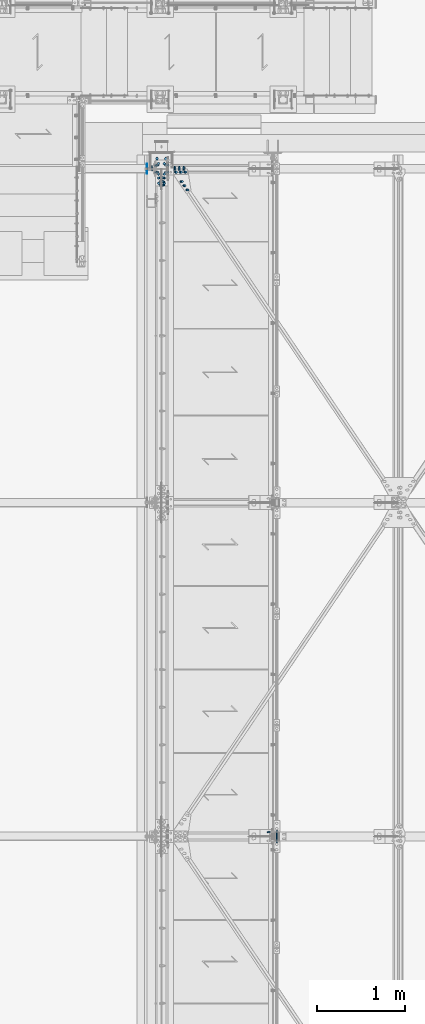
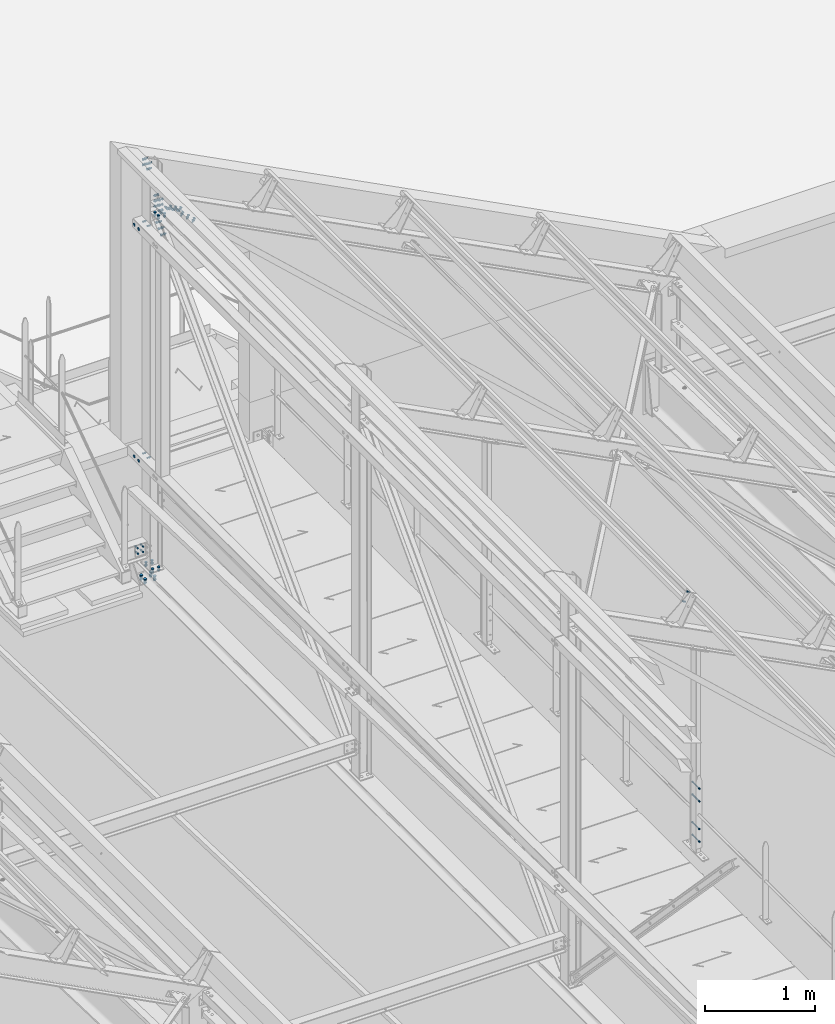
# One storey, part 174 of 362: 17 mechanical fasteners.
"""IFC2X3 building model written with IfcOpenShell, lengths in millimetres."""

from ifc_helpers import new_model, si_unit, frame, frame_2d, origin_with_axes, origin_2d_with_axis, place, context, subcontext, project, spatial, polyline, circle_curve, parameter, trimmed, segment, composite_curve, circle, outline, extrude, source, transform, mapped, material, type_object, element, save


model = new_model("IFC2X3")

# Units and contexts
model_context = context("Model", 3, precision=1e-05, world=origin_with_axes())
body_context = subcontext(model_context, "Body", "Model", "MODEL_VIEW")
ifc_project = project(units=[si_unit("LENGTHUNIT", "METRE", prefix="MILLI"), si_unit("AREAUNIT", "SQUARE_METRE"), si_unit("VOLUMEUNIT", "CUBIC_METRE"), si_unit("MASSUNIT", "GRAM", prefix="KILO"), si_unit("TIMEUNIT", "SECOND"), si_unit("PLANEANGLEUNIT", "RADIAN"), si_unit("SOLIDANGLEUNIT", "STERADIAN"), si_unit("THERMODYNAMICTEMPERATUREUNIT", "DEGREE_CELSIUS"), si_unit("LUMINOUSINTENSITYUNIT", "LUMEN")], contexts=[model_context])

# Site, building, storey
site_placement = place(None, origin_with_axes())
site = spatial("IfcSite", under=ifc_project, at=site_placement, Name="Undefined", CompositionType="ELEMENT")
building_placement = place(site_placement, origin_with_axes())
building = spatial("IfcBuilding", under=site, at=building_placement, Name="Undefined", CompositionType="ELEMENT")
storey_placement = place(building_placement, origin_with_axes())
storey = spatial("IfcBuildingStorey", under=building, at=storey_placement, Name="Undefined", CompositionType="ELEMENT", Elevation=0.0)

# Mechanical fasteners
ifc_material_1 = material(Name="6.8")
mechanical_fastener_type = type_object("IfcMechanicalFastenerType", Name="Bolt assembly")
shared_shape_1 = source(origin_with_axes(), body_context, "Body", "SweptSolid", [
    extrude(circle(Radius=15.0, at=origin_2d_with_axis()), frame((0.0, 0.0, 0.0), z_axis=(0.0, 1.0, 0.0), x_axis=(1.0, 0.0, 0.0)), (0.0, 0.0, 1.0), 4.1),
])
mechanical_fastener_1_placement = place(storey_placement, frame((23303.5000012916, 15200.0, 11070.0), z_axis=(0.0, 1.0, 0.0), x_axis=(0.0, 0.0, 1.0)))
element("IfcMechanicalFastener", 1, at=mechanical_fastener_1_placement, inside=storey, type_object=mechanical_fastener_type, material=ifc_material_1, Name="Bolt assembly", NominalDiameter=30.0, NominalLength=4.0, context=body_context, shape_type="MappedRepresentation", body=[
    mapped(shared_shape_1, transform((0.0, 0.0, 40.0))),
    mapped(shared_shape_1, transform((0.0, 0.0, -40.0))),
])
ifc_material_2 = material(Name="#_SB-8.8-ZINGUE")
shared_shape_2 = source(origin_with_axes(), body_context, "Body", "SweptSolid", [
    extrude(circle(Radius=9.0, at=origin_2d_with_axis()), frame((0.0, 0.1, 0.0), z_axis=(0.0, 1.0, 0.0), x_axis=(1.0, 0.0, 0.0)), (0.0, 0.0, 1.0), 6.0),
    extrude(circle(Radius=9.0, at=origin_2d_with_axis()), frame((0.0, 5.90002706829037, 0.0), z_axis=(0.0, 1.0, 0.0), x_axis=(1.0, 0.0, 0.0)), (0.0, 0.0, 1.0), 6.1),
    extrude(outline(polyline([(13.85640646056, 0.0), (6.92820323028, 12.0000000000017), (-6.92820323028, 12.0000000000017), (-13.85640646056, 0.0), (-6.92820323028, -12.0000000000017), (6.92820323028, -12.0000000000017), (13.85640646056, 0.0)])), frame((0.0, -10.5600019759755, 0.0), z_axis=(0.0, 1.0, 0.0), x_axis=(1.0, 0.0, 0.0)), (0.0, 0.0, 1.0), 10.56),
    extrude(circle(Radius=8.0, at=origin_2d_with_axis()), frame((0.0, 0.0, 0.0), z_axis=(0.0, 1.0, 0.0), x_axis=(1.0, 0.0, 0.0)), (0.0, 0.0, 1.0), 40.0),
    extrude(outline(polyline([(15.3344231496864, 0.0), (7.6672115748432, 13.2800000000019), (-7.6672115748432, 13.2800000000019), (-15.3344231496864, 0.0), (-7.6672115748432, -13.2800000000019), (7.6672115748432, -13.2800000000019), (15.3344231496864, 0.0)])), frame((0.0, 12.0000270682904, 0.0), z_axis=(0.0, 1.0, 0.0), x_axis=(1.0, 0.0, 0.0)), (0.0, 0.0, 1.0), 10.56),
])
mechanical_fastener_2_placement = place(storey_placement, frame((23691.9693370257, 15162.0002680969, 11177.6207287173), z_axis=(-0.887870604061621, -1.29999898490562e-08, 0.460093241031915), x_axis=(0.0, 1.0, 0.0)))
element("IfcMechanicalFastener", 2, at=mechanical_fastener_2_placement, inside=storey, type_object=mechanical_fastener_type, material=ifc_material_2, Name="Bolt assembly", NominalDiameter=16.0, NominalLength=40.0, context=body_context, shape_type="MappedRepresentation", body=[
    mapped(shared_shape_2, transform((0.0, 0.0, -60.0))),
    mapped(shared_shape_2, transform((0.0, 0.0, 0.0))),
    mapped(shared_shape_2, transform((0.0, 0.0, 60.0))),
])
ifc_material_3 = material(Name="8.8-SB-ZINGUE")
shared_shape_3 = source(origin_with_axes(), body_context, "Body", "SweptSolid", [
    extrude(circle(Radius=9.0, at=origin_2d_with_axis()), frame((0.0, -10.9000000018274, 0.0), z_axis=(0.0, 1.0, 0.0), x_axis=(1.0, 0.0, 0.0)), (0.0, 0.0, 1.0), 6.0),
    extrude(circle(Radius=9.0, at=origin_2d_with_axis()), frame((0.0, 4.9000000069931, 0.0), z_axis=(0.0, 1.0, 0.0), x_axis=(1.0, 0.0, 0.0)), (0.0, 0.0, 1.0), 6.1),
    extrude(circle(Radius=9.0, at=origin_2d_with_axis()), frame((0.0, -3.99999923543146, 0.0), z_axis=(0.0, 1.0, 0.0), x_axis=(1.0, 0.0, 0.0)), (0.0, 0.0, 1.0), 8.0),
    extrude(outline(polyline([(13.85640646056, 0.0), (6.92820323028, 12.0000000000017), (-6.92820323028, 12.0000000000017), (-13.85640646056, 0.0), (-6.92820323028, -12.0000000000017), (6.92820323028, -12.0000000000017), (13.85640646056, 0.0)])), frame((0.0, -21.5600000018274, 0.0), z_axis=(0.0, 1.0, 0.0), x_axis=(1.0, 0.0, 0.0)), (0.0, 0.0, 1.0), 10.56),
    extrude(circle(Radius=8.0, at=origin_2d_with_axis()), frame((0.0, -11.0000000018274, 0.0), z_axis=(0.0, 1.0, 0.0), x_axis=(1.0, 0.0, 0.0)), (0.0, 0.0, 1.0), 50.0),
    extrude(outline(polyline([(15.3344231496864, 0.0), (7.6672115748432, 13.2800000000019), (-7.6672115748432, 13.2800000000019), (-15.3344231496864, 0.0), (-7.6672115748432, -13.2800000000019), (7.6672115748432, -13.2800000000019), (15.3344231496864, 0.0)])), frame((0.0, 11.0000000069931, 0.0), z_axis=(0.0, 1.0, 0.0), x_axis=(1.0, 0.0, 0.0)), (0.0, 0.0, 1.0), 10.56),
])
mechanical_fastener_3_placement = place(storey_placement, frame((23470.0, 15096.4973266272, 11127.4311435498), z_axis=(0.0, -0.723792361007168, 0.69001783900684), x_axis=(0.0, -0.69001783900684, -0.723792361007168)))
element("IfcMechanicalFastener", 3, at=mechanical_fastener_3_placement, inside=storey, type_object=mechanical_fastener_type, material=ifc_material_3, Name="Bolt assembly", NominalDiameter=16.0, NominalLength=50.0, context=body_context, shape_type="MappedRepresentation", body=[
    mapped(shared_shape_3, transform((0.0, 0.0, 0.0))),
    mapped(shared_shape_3, transform((60.0, 0.0, 0.0))),
    mapped(shared_shape_3, transform((120.0, 0.0, 0.0))),
])
shared_shape_4 = source(origin_with_axes(), body_context, "Body", "SweptSolid", [
    extrude(circle(Radius=7.0, at=origin_2d_with_axis()), frame((0.0, -49.9999938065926, 0.0), z_axis=(0.0, 1.0, 0.0), x_axis=(1.0, 0.0, 0.0)), (0.0, 0.0, 1.0), 100.0),
    extrude(circle(Radius=7.0, at=origin_2d_with_axis()), frame((0.0, -57.3998951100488, 0.0), z_axis=(0.0, 1.0, 0.0), x_axis=(1.0, 0.0, 0.0)), (0.0, 0.0, 1.0), 5.0),
    extrude(circle(Radius=7.0, at=origin_2d_with_axis()), frame((0.0, 52.4001048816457, 0.0), z_axis=(0.0, 1.0, 0.0), x_axis=(1.0, 0.0, 0.0)), (0.0, 0.0, 1.0), 5.1),
    extrude(outline(polyline([(10.96965511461, 0.0), (5.484827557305, 9.50000000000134), (-5.484827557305, 9.50000000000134), (-10.96965511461, 0.0), (-5.484827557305, -9.50000000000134), (5.484827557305, -9.50000000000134), (10.96965511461, 0.0)])), frame((0.0, -65.4998951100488, 0.0), z_axis=(0.0, 1.0, 0.0), x_axis=(1.0, 0.0, 0.0)), (0.0, 0.0, 1.0), 8.0),
    extrude(circle(Radius=6.0, at=origin_2d_with_axis()), frame((0.0, -57.4998951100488, 0.0), z_axis=(0.0, 1.0, 0.0), x_axis=(1.0, 0.0, 0.0)), (0.0, 0.0, 1.0), 130.0),
    extrude(outline(polyline([(10.39230484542, 0.0), (5.19615242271, 9.00000000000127), (-5.19615242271, 9.00000000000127), (-10.39230484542, 0.0), (-5.19615242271, -9.00000000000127), (5.19615242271, -9.00000000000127), (10.39230484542, 0.0)])), frame((0.0, 57.5001048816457, 0.0), z_axis=(0.0, 1.0, 0.0), x_axis=(1.0, 0.0, 0.0)), (0.0, 0.0, 1.0), 10.8),
])
for number, where, z_axis, x_axis, name in (
    (4, (24783.9916033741, 7600.00010635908, 8450.17500434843), (0.0, 0.0, 1.0), (-1.0, 0.0, 0.0), "Bolt assembly"),
    (5, (24783.9916033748, 7600.00010669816, 8897.42500135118), (0.0, 0.0, 1.0), (-1.0, 0.0, 0.0), "Bolt assembly"),
):
    element("IfcMechanicalFastener", number, at=place(storey_placement, frame(where, z_axis=z_axis, x_axis=x_axis)), inside=storey, type_object=mechanical_fastener_type, material=ifc_material_1, Name=name, NominalDiameter=12.0, NominalLength=130.0, context=body_context, shape_type="MappedRepresentation", body=[
        mapped(shared_shape_4, transform((0.0, 6.3664629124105e-11, -70.0))),
        mapped(shared_shape_4, transform((0.0, -6.3664629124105e-11, 70.0))),
    ])
shared_shape_5 = source(origin_with_axes(), body_context, "Body", "SweptSolid", [
    extrude(circle(Radius=7.0, at=origin_2d_with_axis()), frame((0.0, -0.100011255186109, 0.0), z_axis=(0.0, 1.0, 0.0), x_axis=(1.0, 0.0, 0.0)), (0.0, 0.0, 1.0), 1.6),
    extrude(circle(Radius=7.0, at=origin_2d_with_axis()), frame((0.0, -9.9, 0.0), z_axis=(0.0, 1.0, 0.0), x_axis=(1.0, 0.0, 0.0)), (0.0, 0.0, 1.0), 10.0),
    extrude(outline(polyline([(10.39230484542, 0.0), (5.19615242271, 9.00000000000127), (-5.19615242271, 9.00000000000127), (-10.39230484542, 0.0), (-5.19615242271, -9.00000000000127), (5.19615242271, -9.00000000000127), (10.39230484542, 0.0)])), frame((0.0, -17.92, 0.0), z_axis=(0.0, 1.0, 0.0), x_axis=(1.0, 0.0, 0.0)), (0.0, 0.0, 1.0), 7.92),
    extrude(circle(Radius=6.0, at=origin_2d_with_axis()), frame((0.0, -10.0000010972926, 0.0), z_axis=(0.0, 1.0, 0.0), x_axis=(1.0, 0.0, 0.0)), (0.0, 0.0, 1.0), 30.0),
    extrude(outline(polyline([(11.5008173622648, 0.0), (5.7504086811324, 9.96000000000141), (-5.7504086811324, 9.96000000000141), (-11.5008173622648, 0.0), (-5.7504086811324, -9.96000000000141), (5.7504086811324, -9.96000000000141), (11.5008173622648, 0.0)])), frame((0.0, 1.50001896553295, 0.0), z_axis=(0.0, 1.0, 0.0), x_axis=(1.0, 0.0, 0.0)), (0.0, 0.0, 1.0), 7.92),
])
mechanical_fastener_4_placement = place(storey_placement, frame((24690.1059949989, 7649.9999403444, 11008.4114274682), z_axis=(0.0, 1.0, 0.0), x_axis=(0.460093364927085, 0.0, 0.887870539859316)))
element("IfcMechanicalFastener", 6, at=mechanical_fastener_4_placement, inside=storey, type_object=mechanical_fastener_type, material=ifc_material_3, Name="Bolt assembly", NominalDiameter=12.0, NominalLength=30.0, context=body_context, shape_type="MappedRepresentation", body=[
    mapped(shared_shape_5, transform((0.0, 0.0, 0.0))),
    mapped(shared_shape_5, transform((102.00000000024, -2.51020537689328e-10, 0.0))),
])
shared_shape_6 = source(origin_with_axes(), body_context, "Body", "SweptSolid", [
    extrude(circle(Radius=9.0, at=origin_2d_with_axis()), frame((0.0, -5.9000361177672, 0.0), z_axis=(0.0, 1.0, 0.0), x_axis=(1.0, 0.0, 0.0)), (0.0, 0.0, 1.0), 6.0),
    extrude(circle(Radius=9.0, at=origin_2d_with_axis()), frame((0.0, -0.10007666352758, 0.0), z_axis=(0.0, 1.0, 0.0), x_axis=(1.0, 0.0, 0.0)), (0.0, 0.0, 1.0), 6.1),
    extrude(outline(polyline([(13.85640646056, 0.0), (6.92820323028, 12.0000000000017), (-6.92820323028, 12.0000000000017), (-13.85640646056, 0.0), (-6.92820323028, -12.0000000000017), (6.92820323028, -12.0000000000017), (13.85640646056, 0.0)])), frame((0.0, -16.5600265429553, 0.0), z_axis=(0.0, 1.0, 0.0), x_axis=(1.0, 0.0, 0.0)), (0.0, 0.0, 1.0), 10.56),
    extrude(circle(Radius=8.0, at=origin_2d_with_axis()), frame((0.0, -6.00003611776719, 0.0), z_axis=(0.0, 1.0, 0.0), x_axis=(1.0, 0.0, 0.0)), (0.0, 0.0, 1.0), 40.0),
    extrude(outline(polyline([(15.3344231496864, 0.0), (7.6672115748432, 13.2800000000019), (-7.6672115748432, 13.2800000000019), (-15.3344231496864, 0.0), (-7.6672115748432, -13.2800000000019), (7.6672115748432, -13.2800000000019), (15.3344231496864, 0.0)])), frame((0.0, 5.99989660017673, 0.0), z_axis=(0.0, 1.0, 0.0), x_axis=(1.0, 0.0, 0.0)), (0.0, 0.0, 1.0), 10.56),
])
mechanical_fastener_5_placement = place(storey_placement, frame((23701.1872865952, 15055.1900803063, 11172.8439323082), z_axis=(0.706117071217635, 0.60622555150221, -0.365908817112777), x_axis=(0.538249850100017, -0.795292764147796, -0.278920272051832)))
element("IfcMechanicalFastener", 7, at=mechanical_fastener_5_placement, inside=storey, type_object=mechanical_fastener_type, material=ifc_material_2, Name="Bolt assembly", NominalDiameter=16.0, NominalLength=40.0, context=body_context, shape_type="MappedRepresentation", body=[
    mapped(shared_shape_6, transform((0.0, 0.0, 0.0))),
    mapped(shared_shape_6, transform((60.0, 0.0, 0.0))),
    mapped(shared_shape_6, transform((120.0, 0.0, 0.0))),
])
shared_shape_7 = source(origin_with_axes(), body_context, "Body", "SweptSolid", [
    extrude(circle(Radius=9.0, at=origin_2d_with_axis()), frame((0.0, -2.90016829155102, 0.0), z_axis=(0.0, 1.0, 0.0), x_axis=(1.0, 0.0, 0.0)), (0.0, 0.0, 1.0), 5.7),
    extrude(circle(Radius=9.0, at=origin_2d_with_axis()), frame((0.0, -8.89990143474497, 0.0), z_axis=(0.0, 1.0, 0.0), x_axis=(1.0, 0.0, 0.0)), (0.0, 0.0, 1.0), 6.0),
    extrude(outline(polyline([(13.85640646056, 0.0), (6.92820323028, 12.0000000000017), (-6.92820323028, 12.0000000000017), (-13.85640646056, 0.0), (-6.92820323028, -12.0000000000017), (6.92820323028, -12.0000000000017), (13.85640646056, 0.0)])), frame((0.0, -19.559901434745, 0.0), z_axis=(0.0, 1.0, 0.0), x_axis=(1.0, 0.0, 0.0)), (0.0, 0.0, 1.0), 10.56),
    extrude(circle(Radius=8.0, at=origin_2d_with_axis()), frame((0.0, -8.99990143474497, 0.0), z_axis=(0.0, 1.0, 0.0), x_axis=(1.0, 0.0, 0.0)), (0.0, 0.0, 1.0), 40.0),
    extrude(outline(polyline([(15.3344231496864, 0.0), (7.6672115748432, 13.2800000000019), (-7.6672115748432, 13.2800000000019), (-15.3344231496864, 0.0), (-7.6672115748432, -13.2800000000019), (7.6672115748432, -13.2800000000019), (15.3344231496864, 0.0)])), frame((0.0, 2.79983161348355, 0.0), z_axis=(0.0, 1.0, 0.0), x_axis=(1.0, 0.0, 0.0)), (0.0, 0.0, 1.0), 10.56),
])
mechanical_fastener_6_placement = place(storey_placement, frame((23673.105573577, 15200.0001683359, 11141.217965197), z_axis=(-0.887870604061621, -1.29999898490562e-08, 0.460093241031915), x_axis=(0.460093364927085, 0.0, 0.887870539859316)))
element("IfcMechanicalFastener", 8, at=mechanical_fastener_6_placement, inside=storey, type_object=mechanical_fastener_type, material=ifc_material_2, Name="Bolt assembly", NominalDiameter=16.0, NominalLength=40.0, context=body_context, shape_type="MappedRepresentation", body=[
    mapped(shared_shape_7, transform((0.0, 0.0, -60.0))),
    mapped(shared_shape_7, transform((0.0, 0.0, 0.0))),
    mapped(shared_shape_7, transform((0.0, 0.0, 60.0))),
])
shared_shape_8 = source(origin_with_axes(), body_context, "Body", "SweptSolid", [
    extrude(circle(Radius=9.0, at=origin_2d_with_axis()), frame((0.0, -0.091713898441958, 0.0), z_axis=(0.0, 1.0, 0.0), x_axis=(1.0, 0.0, 0.0)), (0.0, 0.0, 1.0), 8.6),
    extrude(circle(Radius=9.0, at=origin_2d_with_axis()), frame((0.0, -9.89171439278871, 0.0), z_axis=(0.0, 1.0, 0.0), x_axis=(1.0, 0.0, 0.0)), (0.0, 0.0, 1.0), 10.0),
    extrude(outline(polyline([(13.85640646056, 0.0), (6.92820323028, 12.0000000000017), (-6.92820323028, 12.0000000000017), (-13.85640646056, 0.0), (-6.92820323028, -12.0000000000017), (6.92820323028, -12.0000000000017), (13.85640646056, 0.0)])), frame((0.0, -20.5517143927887, 0.0), z_axis=(0.0, 1.0, 0.0), x_axis=(1.0, 0.0, 0.0)), (0.0, 0.0, 1.0), 10.56),
    extrude(circle(Radius=8.0, at=origin_2d_with_axis()), frame((0.0, -9.99171439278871, 0.0), z_axis=(0.0, 1.0, 0.0), x_axis=(1.0, 0.0, 0.0)), (0.0, 0.0, 1.0), 40.0),
    extrude(outline(polyline([(15.3344231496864, 0.0), (7.6672115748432, 13.2800000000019), (-7.6672115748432, 13.2800000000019), (-15.3344231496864, 0.0), (-7.6672115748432, -13.2800000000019), (7.6672115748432, -13.2800000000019), (15.3344231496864, 0.0)])), frame((0.0, 8.50828610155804, 0.0), z_axis=(0.0, 1.0, 0.0), x_axis=(1.0, 0.0, 0.0)), (0.0, 0.0, 1.0), 10.56),
])
mechanical_fastener_7_placement = place(storey_placement, frame((23536.5082856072, 15160.0, 11258.0026850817), z_axis=(0.0, 0.0, 1.0), x_axis=(0.0, 1.0, 0.0)))
element("IfcMechanicalFastener", 9, at=mechanical_fastener_7_placement, inside=storey, type_object=mechanical_fastener_type, material=ifc_material_3, Name="Bolt assembly", NominalDiameter=16.0, NominalLength=40.0, context=body_context, shape_type="MappedRepresentation", body=[
    mapped(shared_shape_8, transform((0.0, 0.0, -60.0))),
    mapped(shared_shape_8, transform((80.0, 0.0, -60.0))),
    mapped(shared_shape_8, transform((0.0, 0.0, 0.0))),
    mapped(shared_shape_8, transform((80.0, 0.0, 0.0))),
    mapped(shared_shape_8, transform((0.0, 0.0, 60.0))),
    mapped(shared_shape_8, transform((80.0, 0.0, 60.0))),
])
shared_shape_9 = source(origin_with_axes(), body_context, "Body", "SweptSolid", [
    extrude(circle(Radius=15.0, at=origin_2d_with_axis()), frame((0.0, -0.000130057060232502, 0.0), z_axis=(0.0, 1.0, 0.0), x_axis=(1.0, 0.0, 0.0)), (0.0, 0.0, 1.0), 4.1),
])
mechanical_fastener_8_placement = place(storey_placement, frame((23303.5001162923, 15200.0, 8500.0), z_axis=(0.0, -1.0, 0.0), x_axis=(0.0, 0.0, -1.0)))
element("IfcMechanicalFastener", 10, at=mechanical_fastener_8_placement, inside=storey, type_object=mechanical_fastener_type, material=ifc_material_1, Name="Bolt assembly", NominalDiameter=30.0, NominalLength=4.0, context=body_context, shape_type="MappedRepresentation", body=[
    mapped(shared_shape_9, transform((0.0, 0.0, -40.0))),
    mapped(shared_shape_9, transform((0.0, 0.0, 40.0))),
])
shared_shape_10 = source(origin_with_axes(), body_context, "Body", "SweptSolid", [
    extrude(circle(Radius=7.0, at=origin_2d_with_axis()), frame((0.0, -3.90012822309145, 0.0), z_axis=(0.0, 1.0, 0.0), x_axis=(1.0, 0.0, 0.0)), (0.0, 0.0, 1.0), 4.0),
    extrude(circle(Radius=7.0, at=origin_2d_with_axis()), frame((0.0, -0.10007666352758, 0.0), z_axis=(0.0, 1.0, 0.0), x_axis=(1.0, 0.0, 0.0)), (0.0, 0.0, 1.0), 8.6),
    extrude(outline(polyline([(10.39230484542, 0.0), (5.19615242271, 9.00000000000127), (-5.19615242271, 9.00000000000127), (-10.39230484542, 0.0), (-5.19615242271, -9.00000000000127), (5.19615242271, -9.00000000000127), (10.39230484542, 0.0)])), frame((0.0, -11.9201282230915, 0.0), z_axis=(0.0, 1.0, 0.0), x_axis=(1.0, 0.0, 0.0)), (0.0, 0.0, 1.0), 7.92),
    extrude(circle(Radius=6.0, at=origin_2d_with_axis()), frame((0.0, -4.00012822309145, 0.0), z_axis=(0.0, 1.0, 0.0), x_axis=(1.0, 0.0, 0.0)), (0.0, 0.0, 1.0), 30.0),
    extrude(outline(polyline([(11.5008173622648, 0.0), (5.7504086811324, 9.96000000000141), (-5.7504086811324, 9.96000000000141), (-11.5008173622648, 0.0), (-5.7504086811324, -9.96000000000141), (5.7504086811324, -9.96000000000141), (11.5008173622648, 0.0)])), frame((0.0, 8.49988372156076, 0.0), z_axis=(0.0, 1.0, 0.0), x_axis=(1.0, 0.0, 0.0)), (0.0, 0.0, 1.0), 7.92),
])
mechanical_fastener_9_placement = place(storey_placement, frame((23403.5001162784, 15200.0, 8500.0), z_axis=(0.0, -1.0, 0.0), x_axis=(0.0, 0.0, -1.0)))
element("IfcMechanicalFastener", 11, at=mechanical_fastener_9_placement, inside=storey, type_object=mechanical_fastener_type, material=ifc_material_3, Name="Bolt assembly", NominalDiameter=12.0, NominalLength=30.0, context=body_context, shape_type="MappedRepresentation", body=[
    mapped(shared_shape_10, transform((0.0, 0.0, -40.0))),
    mapped(shared_shape_10, transform((0.0, 0.0, 40.0))),
])
shared_shape_11 = source(origin_with_axes(), body_context, "Body", "SweptSolid", [
    extrude(circle(Radius=7.0, at=origin_2d_with_axis()), frame((0.0, -3.89999843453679, 0.0), z_axis=(0.0, 1.0, 0.0), x_axis=(1.0, 0.0, 0.0)), (0.0, 0.0, 1.0), 4.0),
    extrude(circle(Radius=7.0, at=origin_2d_with_axis()), frame((0.0, -0.100011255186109, 0.0), z_axis=(0.0, 1.0, 0.0), x_axis=(1.0, 0.0, 0.0)), (0.0, 0.0, 1.0), 8.6),
    extrude(outline(polyline([(10.39230484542, 0.0), (5.19615242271, 9.00000000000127), (-5.19615242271, 9.00000000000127), (-10.39230484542, 0.0), (-5.19615242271, -9.00000000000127), (5.19615242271, -9.00000000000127), (10.39230484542, 0.0)])), frame((0.0, -11.9199984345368, 0.0), z_axis=(0.0, 1.0, 0.0), x_axis=(1.0, 0.0, 0.0)), (0.0, 0.0, 1.0), 7.92),
    extrude(circle(Radius=6.0, at=origin_2d_with_axis()), frame((0.0, -3.99999923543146, 0.0), z_axis=(0.0, 1.0, 0.0), x_axis=(1.0, 0.0, 0.0)), (0.0, 0.0, 1.0), 30.0),
    extrude(outline(polyline([(11.5008173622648, 0.0), (5.7504086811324, 9.96000000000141), (-5.7504086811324, 9.96000000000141), (-11.5008173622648, 0.0), (-5.7504086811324, -9.96000000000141), (5.7504086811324, -9.96000000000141), (11.5008173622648, 0.0)])), frame((0.0, 8.49999994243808, 0.0), z_axis=(0.0, 1.0, 0.0), x_axis=(1.0, 0.0, 0.0)), (0.0, 0.0, 1.0), 7.92),
])
mechanical_fastener_10_placement = place(storey_placement, frame((23403.5000012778, 15200.0, 11070.0), z_axis=(0.0, 1.0, 0.0), x_axis=(0.0, 0.0, 1.0)))
element("IfcMechanicalFastener", 12, at=mechanical_fastener_10_placement, inside=storey, type_object=mechanical_fastener_type, material=ifc_material_3, Name="Bolt assembly", NominalDiameter=12.0, NominalLength=30.0, context=body_context, shape_type="MappedRepresentation", body=[
    mapped(shared_shape_11, transform((0.0, 0.0, -40.0))),
    mapped(shared_shape_11, transform((0.0, 0.0, 40.0))),
])
shared_shape_12 = source(origin_with_axes(), body_context, "Body", "SweptSolid", [
    extrude(circle(Radius=9.0, at=origin_2d_with_axis()), frame((0.0, -0.100011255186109, 0.0), z_axis=(0.0, 1.0, 0.0), x_axis=(1.0, 0.0, 0.0)), (0.0, 0.0, 1.0), 8.6),
    extrude(circle(Radius=9.0, at=origin_2d_with_axis()), frame((0.0, -2.9, 0.0), z_axis=(0.0, 1.0, 0.0), x_axis=(1.0, 0.0, 0.0)), (0.0, 0.0, 1.0), 3.0),
    extrude(outline(polyline([(13.85640646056, 0.0), (6.92820323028, 12.0000000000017), (-6.92820323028, 12.0000000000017), (-13.85640646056, 0.0), (-6.92820323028, -12.0000000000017), (6.92820323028, -12.0000000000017), (13.85640646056, 0.0)])), frame((0.0, -13.56, 0.0), z_axis=(0.0, 1.0, 0.0), x_axis=(1.0, 0.0, 0.0)), (0.0, 0.0, 1.0), 10.56),
    extrude(circle(Radius=8.0, at=origin_2d_with_axis()), frame((0.0, -2.99999932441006, 0.0), z_axis=(0.0, 1.0, 0.0), x_axis=(1.0, 0.0, 0.0)), (0.0, 0.0, 1.0), 40.0),
    extrude(outline(polyline([(15.3344231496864, 0.0), (7.6672115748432, 13.2800000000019), (-7.6672115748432, 13.2800000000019), (-15.3344231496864, 0.0), (-7.6672115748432, -13.2800000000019), (7.6672115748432, -13.2800000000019), (15.3344231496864, 0.0)])), frame((0.0, 8.49999994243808, 0.0), z_axis=(0.0, 1.0, 0.0), x_axis=(1.0, 0.0, 0.0)), (0.0, 0.0, 1.0), 10.56),
])
mechanical_fastener_11_placement = place(storey_placement, frame((23403.49999895, 15200.0, 11701.409878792), z_axis=(0.0, 1.0, 0.0), x_axis=(0.0, 0.0, 1.0)))
element("IfcMechanicalFastener", 13, at=mechanical_fastener_11_placement, inside=storey, type_object=mechanical_fastener_type, material=ifc_material_3, Name="Bolt assembly", NominalDiameter=16.0, NominalLength=40.0, context=body_context, shape_type="MappedRepresentation", body=[
    mapped(shared_shape_12, transform((0.0, 0.0, -40.0))),
    mapped(shared_shape_12, transform((60.0, 0.0, -40.0))),
    mapped(shared_shape_12, transform((0.0, 0.0, 40.0))),
    mapped(shared_shape_12, transform((60.0, 0.0, 40.0))),
])
shared_shape_13 = source(origin_with_axes(), body_context, "Body", "SweptSolid", [
    extrude(circle(Radius=7.0, at=origin_2d_with_axis()), frame((0.0, -2.65018567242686, 0.0), z_axis=(0.0, 1.0, 0.0), x_axis=(1.0, 0.0, 0.0)), (0.0, 0.0, 1.0), 5.3),
    extrude(circle(Radius=7.0, at=origin_2d_with_axis()), frame((0.0, -12.9001594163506, 0.0), z_axis=(0.0, 1.0, 0.0), x_axis=(1.0, 0.0, 0.0)), (0.0, 0.0, 1.0), 10.0),
    extrude(circle(Radius=7.0, at=origin_2d_with_axis()), frame((0.0, 2.90070287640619, 0.0), z_axis=(0.0, 1.0, 0.0), x_axis=(1.0, 0.0, 0.0)), (0.0, 0.0, 1.0), 10.1),
    extrude(outline(polyline([(10.39230484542, 0.0), (5.19615242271, 9.00000000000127), (-5.19615242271, 9.00000000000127), (-10.39230484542, 0.0), (-5.19615242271, -9.00000000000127), (5.19615242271, -9.00000000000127), (10.39230484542, 0.0)])), frame((0.0, -20.9201594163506, 0.0), z_axis=(0.0, 1.0, 0.0), x_axis=(1.0, 0.0, 0.0)), (0.0, 0.0, 1.0), 7.92),
    extrude(circle(Radius=6.0, at=origin_2d_with_axis()), frame((0.0, -13.0001594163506, 0.0), z_axis=(0.0, 1.0, 0.0), x_axis=(1.0, 0.0, 0.0)), (0.0, 0.0, 1.0), 50.0),
    extrude(outline(polyline([(11.5008173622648, 0.0), (5.7504086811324, 9.96000000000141), (-5.7504086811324, 9.96000000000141), (-11.5008173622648, 0.0), (-5.7504086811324, -9.96000000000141), (5.7504086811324, -9.96000000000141), (11.5008173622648, 0.0)])), frame((0.0, 13.0007028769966, 0.0), z_axis=(0.0, 1.0, 0.0), x_axis=(1.0, 0.0, 0.0)), (0.0, 0.0, 1.0), 7.92),
])
mechanical_fastener_12_placement = place(storey_placement, frame((23308.4999999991, 15200.0001998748, 7482.27625666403), z_axis=(7.58071938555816e-11, 0.0314107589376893, 0.999506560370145), x_axis=(0.999999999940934, -1.08559999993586e-05, 5.27999997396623e-07)))
element("IfcMechanicalFastener", 14, at=mechanical_fastener_12_placement, inside=storey, type_object=mechanical_fastener_type, material=ifc_material_3, Name="Bolt assembly", NominalDiameter=12.0, NominalLength=50.0, context=body_context, shape_type="MappedRepresentation", body=[
    mapped(shared_shape_13, transform((0.0, 0.0, -30.0))),
    mapped(shared_shape_13, transform((55.0000000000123, 3.45607986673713e-11, -30.0000000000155))),
    mapped(shared_shape_13, transform((0.0, 0.0, 30.0))),
    mapped(shared_shape_13, transform((54.9999999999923, 3.45607986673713e-11, 29.9999999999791))),
])
shared_shape_14 = source(origin_with_axes(), body_context, "Body", "SweptSolid", [
    extrude(circle(Radius=9.0, at=origin_2d_with_axis()), frame((0.0, -8.40001950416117, 0.0), z_axis=(0.0, 1.0, 0.0), x_axis=(1.0, 0.0, 0.0)), (0.0, 0.0, 1.0), 8.5),
    extrude(circle(Radius=9.0, at=origin_2d_with_axis()), frame((0.0, -0.100011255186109, 0.0), z_axis=(0.0, 1.0, 0.0), x_axis=(1.0, 0.0, 0.0)), (0.0, 0.0, 1.0), 10.1),
    extrude(outline(polyline([(13.85640646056, 0.0), (6.92820323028, 12.0000000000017), (-6.92820323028, 12.0000000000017), (-13.85640646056, 0.0), (-6.92820323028, -12.0000000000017), (6.92820323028, -12.0000000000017), (13.85640646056, 0.0)])), frame((0.0, -19.0599999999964, 0.0), z_axis=(0.0, 1.0, 0.0), x_axis=(1.0, 0.0, 0.0)), (0.0, 0.0, 1.0), 10.56),
    extrude(circle(Radius=8.0, at=origin_2d_with_axis()), frame((0.0, -8.5, 0.0), z_axis=(0.0, 1.0, 0.0), x_axis=(1.0, 0.0, 0.0)), (0.0, 0.0, 1.0), 40.0),
    extrude(outline(polyline([(15.3344231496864, 0.0), (7.6672115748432, 13.2800000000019), (-7.6672115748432, 13.2800000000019), (-15.3344231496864, 0.0), (-7.6672115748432, -13.2800000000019), (7.6672115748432, -13.2800000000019), (15.3344231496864, 0.0)])), frame((0.0, 10.0000000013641, 0.0), z_axis=(0.0, 1.0, 0.0), x_axis=(1.0, 0.0, 0.0)), (0.0, 0.0, 1.0), 10.56),
])
mechanical_fastener_13_placement = place(storey_placement, frame((23470.0000000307, 15094.9969221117, 11236.0), z_axis=(1.0, 0.0, 0.0), x_axis=(0.0, -1.0, 0.0)))
element("IfcMechanicalFastener", 15, at=mechanical_fastener_13_placement, inside=storey, type_object=mechanical_fastener_type, material=ifc_material_3, Name="Bolt assembly", NominalDiameter=16.0, NominalLength=40.0, context=body_context, shape_type="MappedRepresentation", body=[
    mapped(shared_shape_14, transform((0.0, 0.0, 32.5))),
    mapped(shared_shape_14, transform((60.0, 0.0, 32.5))),
    mapped(shared_shape_14, transform((0.0, 0.0, -32.5))),
    mapped(shared_shape_14, transform((60.0, 0.0, -32.5))),
])
shared_shape_15 = source(origin_with_axes(), body_context, "Body", "SweptSolid", [
    extrude(circle(Radius=9.0, at=origin_2d_with_axis()), frame((0.0, -0.10007666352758, 0.0), z_axis=(0.0, 1.0, 0.0), x_axis=(1.0, 0.0, 0.0)), (0.0, 0.0, 1.0), 9.6),
    extrude(circle(Radius=9.0, at=origin_2d_with_axis()), frame((0.0, -9.9, 0.0), z_axis=(0.0, 1.0, 0.0), x_axis=(1.0, 0.0, 0.0)), (0.0, 0.0, 1.0), 10.0),
    extrude(outline(polyline([(13.85640646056, 0.0), (6.92820323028, 12.0000000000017), (-6.92820323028, 12.0000000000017), (-13.85640646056, 0.0), (-6.92820323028, -12.0000000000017), (6.92820323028, -12.0000000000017), (13.85640646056, 0.0)])), frame((0.0, -20.5600000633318, 0.0), z_axis=(0.0, 1.0, 0.0), x_axis=(1.0, 0.0, 0.0)), (0.0, 0.0, 1.0), 10.56),
    extrude(circle(Radius=8.0, at=origin_2d_with_axis()), frame((0.0, -10.0000010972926, 0.0), z_axis=(0.0, 1.0, 0.0), x_axis=(1.0, 0.0, 0.0)), (0.0, 0.0, 1.0), 40.0),
    extrude(outline(polyline([(15.3344231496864, 0.0), (7.6672115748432, 13.2800000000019), (-7.6672115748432, 13.2800000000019), (-15.3344231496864, 0.0), (-7.6672115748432, -13.2800000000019), (7.6672115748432, -13.2800000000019), (15.3344231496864, 0.0)])), frame((0.0, 9.50000815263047, 0.0), z_axis=(0.0, 1.0, 0.0), x_axis=(1.0, 0.0, 0.0)), (0.0, 0.0, 1.0), 10.56),
])
mechanical_fastener_14_placement = place(storey_placement, frame((23470.0, 15140.0, 7249.9999684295), z_axis=(-1.0, 0.0, 0.0), x_axis=(0.0, 1.0, 0.0)))
element("IfcMechanicalFastener", 16, at=mechanical_fastener_14_placement, inside=storey, type_object=mechanical_fastener_type, material=ifc_material_3, Name="Bolt assembly", NominalDiameter=16.0, NominalLength=40.0, context=body_context, shape_type="MappedRepresentation", body=[
    mapped(shared_shape_15, transform((0.0, 0.0, -32.5))),
    mapped(shared_shape_15, transform((120.0, 0.0, -32.5))),
    mapped(shared_shape_15, transform((0.0, 0.0, 32.5))),
    mapped(shared_shape_15, transform((120.0, 0.0, 32.5))),
])
ifc_material_4 = material(Name="HR10.9")
shared_shape_16 = source(origin_with_axes(), body_context, "Body", "SweptSolid", [
    extrude(circle(Radius=9.0, at=origin_2d_with_axis()), frame((0.0, -9.40000000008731, 0.0), z_axis=(0.0, 1.0, 0.0), x_axis=(1.0, 0.0, 0.0)), (0.0, 0.0, 1.0), 9.5),
    extrude(outline(composite_curve([segment(polyline([(-9.0, 9.0), (9.0, 9.0)]), True, "CONTINUOUS"), segment(trimmed(circle_curve(frame_2d((9.0, 0.0), x_axis=(0.0, 1.0)), 9.0), [parameter(0.0)], [parameter(3.14159265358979)], False, "PARAMETER"), True, "CONTINUOUS"), segment(polyline([(9.0, -9.0), (-9.0, -9.0)]), True, "CONTINUOUS"), segment(trimmed(circle_curve(frame_2d((-9.0, 0.0), x_axis=(0.0, -1.0)), 9.0), [parameter(0.0)], [parameter(3.14159265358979)], False, "PARAMETER"), True, "DISCONTINUOUS")], self_intersect=False)), frame((0.0, -0.100011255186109, 0.0), z_axis=(0.0, 1.0, 0.0), x_axis=(1.0, 0.0, 0.0)), (0.0, 0.0, 1.0), 10.1),
    extrude(outline(polyline([(15.58845726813, 0.0), (7.794228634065, 13.5000000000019), (-7.794228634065, 13.5000000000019), (-15.58845726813, 0.0), (-7.794228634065, -13.5000000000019), (7.794228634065, -13.5000000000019), (15.58845726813, 0.0)])), frame((0.0, -23.5000007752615, 0.0), z_axis=(0.0, 1.0, 0.0), x_axis=(1.0, 0.0, 0.0)), (0.0, 0.0, 1.0), 10.0),
    extrude(circle(Radius=8.0, at=origin_2d_with_axis()), frame((0.0, -13.4999650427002, 0.0), z_axis=(0.0, 1.0, 0.0), x_axis=(1.0, 0.0, 0.0)), (0.0, 0.0, 1.0), 50.0),
    extrude(circle(Radius=15.0, at=origin_2d_with_axis()), frame((0.0, -13.4999650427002, 0.0), z_axis=(0.0, 1.0, 0.0), x_axis=(1.0, 0.0, 0.0)), (0.0, 0.0, 1.0), 4.0),
    extrude(circle(Radius=15.0, at=origin_2d_with_axis()), frame((0.0, 10.0000000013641, 0.0), z_axis=(0.0, 1.0, 0.0), x_axis=(1.0, 0.0, 0.0)), (0.0, 0.0, 1.0), 4.0),
    extrude(outline(polyline([(15.58845726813, 0.0), (7.794228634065, 13.5000000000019), (-7.794228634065, 13.5000000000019), (-15.58845726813, 0.0), (-7.794228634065, -13.5000000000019), (7.794228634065, -13.5000000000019), (15.58845726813, 0.0)])), frame((0.0, 13.9999928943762, 0.0), z_axis=(0.0, 1.0, 0.0), x_axis=(1.0, 0.0, 0.0)), (0.0, 0.0, 1.0), 15.0),
])
mechanical_fastener_15_placement = place(storey_placement, frame((23469.9999999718, 15245.0000005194, 7078.99999922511), z_axis=(-1.0, 0.0, 0.0), x_axis=(0.0, 1.0, 0.0)))
element("IfcMechanicalFastener", 17, at=mechanical_fastener_15_placement, inside=storey, type_object=mechanical_fastener_type, material=ifc_material_4, Name="Bolt assembly", NominalDiameter=16.0, NominalLength=50.0, context=body_context, shape_type="MappedRepresentation", body=[
    mapped(shared_shape_16, transform((0.0, 0.0, -50.0))),
    mapped(shared_shape_16, transform((70.0, 0.0, -50.0))),
    mapped(shared_shape_16, transform((0.0, 0.0, 50.0))),
    mapped(shared_shape_16, transform((70.0, 0.0, 50.0))),
])

save(model, "model.ifc")
